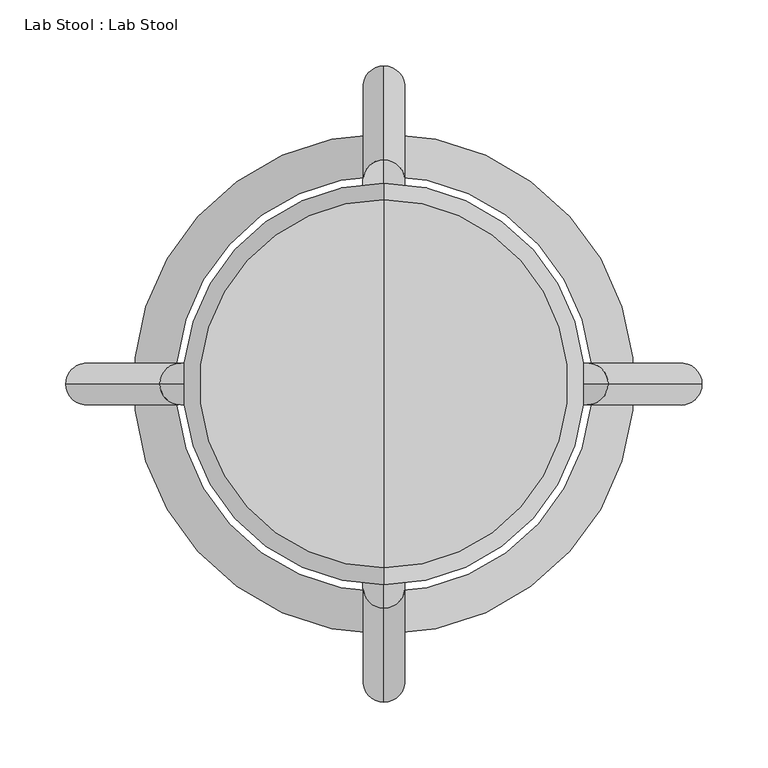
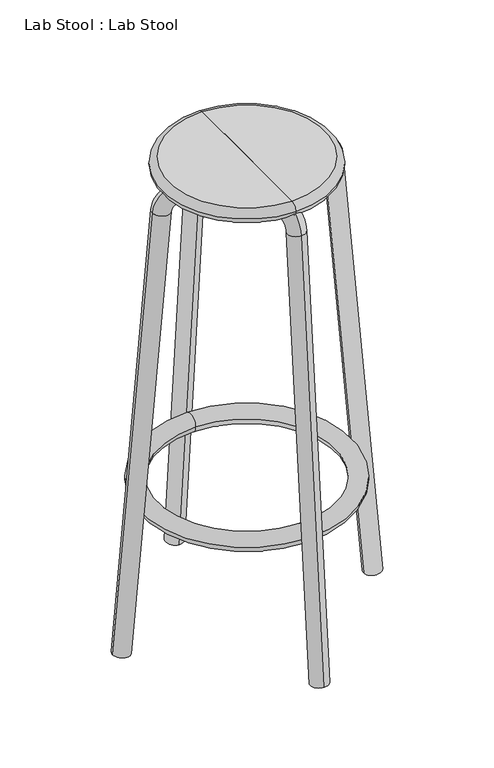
"""IFC4 building model written with IfcOpenShell, lengths in millimetres: furniture geometry, Lab Stool : Lab Stool."""

from ifc_helpers import new_model, si_unit, point, frame, origin, place, context, project, spatial, circle_curve, ellipse_curve, trimmed, source, transform, mapped, element, save
from ifc_brep_helpers import plane_surface, cylinder_surface, revolved_surface, advanced_brep


def lab_stool_lab_stool_061d08b2(model_context):
    return source(origin(), model_context, "Body", "AdvancedBrep", [
        advanced_brep(
        [(0.0, 190.040799, 253.5609407), (0.0, 158.290799, 253.5609407), (0.0, -158.290799, 253.5609407), (0.0, -190.040799, 253.5609407)],
        [
            (0, 1, circle_curve(frame((0.0, 174.165799, 253.5609407), z_axis=(1.0, 0.0, 0.0), x_axis=(0.0, 1.0, 0.0)), 15.875)),
            (1, 2, circle_curve(frame((0.0, 0.0, 253.5609407), z_axis=(0.0, 0.0, -1.0), x_axis=(0.0, -1.0, 0.0)), 158.290799)),
            (2, 3, circle_curve(frame((0.0, -174.165799, 253.5609407), z_axis=(1.0, 0.0, 0.0), x_axis=(0.0, -1.0, 0.0)), 15.875)),
            (3, 0, circle_curve(frame((0.0, 0.0, 253.5609407), z_axis=(0.0, 0.0, 1.0), x_axis=(0.0, -1.0, 0.0)), 190.040799)),
            (1, 0, circle_curve(frame((0.0, 174.165799, 253.5609407), z_axis=(1.0, 0.0, 0.0), x_axis=(0.0, 1.0, 0.0)), 15.875)),
            (3, 2, circle_curve(frame((0.0, -174.165799, 253.5609407), z_axis=(1.0, 0.0, 0.0), x_axis=(0.0, -1.0, 0.0)), 15.875)),
            (2, 1, circle_curve(frame((0.0, 0.0, 253.5609407), z_axis=(0.0, 0.0, -1.0), x_axis=(0.0, 1.0, 0.0)), 158.290799)),
            (0, 3, circle_curve(frame((0.0, 0.0, 253.5609407), z_axis=(0.0, 0.0, 1.0), x_axis=(0.0, 1.0, 0.0)), 190.040799)),
        ],
        [
            revolved_surface(trimmed(ellipse_curve(frame((0.0, -174.165799, 253.5609407), z_axis=(1.0, 0.0, 0.0), x_axis=(0.0, -1.0, 0.0)), 15.875, 15.875), [point((0.0, -158.290799, 253.5609407))], [point((0.0, -190.040799, 253.5609407))], True, "CARTESIAN"), (0.0, 0.0, 254.0), (0.0, 0.0, -1.0)),
            revolved_surface(trimmed(ellipse_curve(frame((0.0, -174.165799, 253.5609407), z_axis=(1.0, 0.0, 0.0), x_axis=(0.0, -1.0, 0.0)), 15.875, 15.875), [point((0.0, -190.040799, 253.5609407))], [point((0.0, -158.290799, 253.5609407))], True, "CARTESIAN"), (0.0, 0.0, 254.0), (0.0, 0.0, -1.0)),
            revolved_surface(trimmed(ellipse_curve(frame((0.0, 174.165799, 253.5609407), z_axis=(-1.0, 0.0, 0.0), x_axis=(0.0, 1.0, 0.0)), 15.875, 15.875), [point((0.0, 158.290799, 253.5609407))], [point((0.0, 190.040799, 253.5609407))], True, "CARTESIAN"), (0.0, 0.0, 254.0), (0.0, 0.0, -1.0)),
            revolved_surface(trimmed(ellipse_curve(frame((0.0, 174.165799, 253.5609407), z_axis=(-1.0, 0.0, 0.0), x_axis=(0.0, 1.0, 0.0)), 15.875, 15.875), [point((0.0, 190.040799, 253.5609407))], [point((0.0, 158.290799, 253.5609407))], True, "CARTESIAN"), (0.0, 0.0, 254.0), (0.0, 0.0, -1.0)),
        ],
        [
            (0, [[1, 2, 3, 4]]),
            (1, [[5, -4, 6, -2]]),
            (2, [[-3, 7, -1, 8]]),
            (3, [[-6, -8, -5, -7]]),
        ],
    ),
        advanced_brep(
        [(0.0, 0.0, 863.6), (0.0, 139.7, 863.6), (0.0, -139.7, 863.6), (0.0, 139.7, 838.2), (0.0, 0.0, 838.2), (0.0, -139.7, 838.2), (0.0, 152.4, 850.9), (0.0, -152.4, 850.9)],
        [
            (0, 1),
            (1, 2, circle_curve(frame((0.0, 0.0, 863.6), z_axis=(0.0, 0.0, 1.0), x_axis=(0.0, -1.0, 0.0)), 139.7)),
            (2, 0),
            (2, 1, circle_curve(frame((0.0, 0.0, 863.6), z_axis=(0.0, 0.0, 1.0), x_axis=(0.0, -1.0, 0.0)), 139.7)),
            (3, 4),
            (4, 5),
            (5, 3, circle_curve(frame((0.0, 0.0, 838.2), z_axis=(0.0, 0.0, -1.0), x_axis=(0.0, -1.0, 0.0)), 139.7)),
            (3, 5, circle_curve(frame((0.0, 0.0, 838.2), z_axis=(0.0, 0.0, -1.0), x_axis=(0.0, -1.0, 0.0)), 139.7)),
            (6, 3, circle_curve(frame((0.0, 139.7, 850.9), z_axis=(-1.0, 0.0, 0.0), x_axis=(0.0, 1.0, 0.0)), 12.7)),
            (5, 7, circle_curve(frame((0.0, -139.7, 850.9), z_axis=(-1.0, 0.0, 0.0), x_axis=(0.0, -1.0, 0.0)), 12.7)),
            (7, 6, circle_curve(frame((0.0, 0.0, 850.9), z_axis=(0.0, 0.0, -1.0), x_axis=(0.0, -1.0, 0.0)), 152.4)),
            (6, 7, circle_curve(frame((0.0, 0.0, 850.9), z_axis=(0.0, 0.0, -1.0), x_axis=(0.0, -1.0, 0.0)), 152.4)),
            (1, 6, circle_curve(frame((0.0, 139.7, 850.9), z_axis=(-1.0, 0.0, 0.0), x_axis=(0.0, 1.0, 0.0)), 12.7)),
            (7, 2, circle_curve(frame((0.0, -139.7, 850.9), z_axis=(-1.0, 0.0, 0.0), x_axis=(0.0, -1.0, 0.0)), 12.7)),
        ],
        [
            plane_surface(frame((0.0, 0.0, 863.6), z_axis=(0.0, 0.0, 1.0), x_axis=(0.0, -1.0, 0.0))),
            plane_surface(frame((0.0, 0.0, 838.2), z_axis=(0.0, 0.0, -1.0), x_axis=(0.0, -1.0, 0.0))),
            revolved_surface(trimmed(ellipse_curve(frame((0.0, -139.7, 850.9), z_axis=(-1.0, 0.0, 0.0), x_axis=(0.0, -1.0, 0.0)), 12.7, 12.7), [point((0.0, -139.7, 838.2))], [point((0.0, -152.4, 850.9))], True, "CARTESIAN"), (0.0, 0.0, 914.4), (0.0, 0.0, 1.0)),
            revolved_surface(trimmed(ellipse_curve(frame((0.0, -139.7, 850.9), z_axis=(-1.0, 0.0, 0.0), x_axis=(0.0, -1.0, 0.0)), 12.7, 12.7), [point((0.0, -152.4, 850.9))], [point((0.0, -139.7, 863.6))], True, "CARTESIAN"), (0.0, 0.0, 914.4), (0.0, 0.0, 1.0)),
        ],
        [
            (0, [[1, 2, 3]]),
            (0, [[-3, 4, -1]]),
            (1, [[5, 6, 7]]),
            (1, [[-6, -5, 8]]),
            (2, [[9, -7, 10, 11]]),
            (2, [[-10, -8, -9, 12]]),
            (3, [[13, -11, 14, -2]]),
            (3, [[-14, -12, -13, -4]]),
        ],
    ),
        advanced_brep(
        [(0.0, 209.9184069, -1.3835974), (0.0, 241.5475886, 1.3835974), (0.0, 170.2431243, 816.3973533), (0.0, 138.6139427, 813.6301584), (0.0, 129.1251882, 854.075), (0.0, 129.1251882, 822.325), (0.0, -129.1251882, 854.075), (0.0, -129.1251882, 822.325), (0.0, -170.2431243, 816.3973533), (0.0, -138.6139427, 813.6301584), (0.0, -209.9184069, -1.3835974), (0.0, -241.5475886, 1.3835974)],
        [
            (0, 1, circle_curve(frame((0.0, 225.7329978, 0.0), z_axis=(0.0, 0.08715574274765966, -0.9961946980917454), x_axis=(0.0, 0.9961946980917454, 0.08715574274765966)), 15.875)),
            (1, 0, circle_curve(frame((0.0, 225.7329978, 0.0), z_axis=(0.0, 0.08715574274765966, -0.9961946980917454), x_axis=(0.0, 0.9961946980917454, 0.08715574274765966)), 15.875)),
            (1, 2),
            (2, 3, circle_curve(frame((0.0, 154.4285335, 815.0137559), z_axis=(0.0, 0.08715574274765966, -0.9961946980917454), x_axis=(0.0, 0.9961946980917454, 0.08715574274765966)), 15.875)),
            (3, 0),
            (3, 2, circle_curve(frame((0.0, 154.4285335, 815.0137559), z_axis=(0.0, 0.08715574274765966, -0.9961946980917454), x_axis=(0.0, 0.9961946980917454, 0.08715574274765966)), 15.875)),
            (4, 5, circle_curve(frame((0.0, 129.1251882, 838.2), z_axis=(0.0, 1.0, 0.0), x_axis=(0.0, 0.0, 1.0)), 15.875)),
            (5, 3, circle_curve(frame((0.0, 129.1251882, 812.8), z_axis=(-1.0, 0.0, 0.0), x_axis=(0.0, 0.9961946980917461, 0.08715574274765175)), 9.525)),
            (2, 4, circle_curve(frame((0.0, 129.1251882, 812.8), z_axis=(1.0, 0.0, 0.0), x_axis=(0.0, 0.9961946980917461, 0.08715574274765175)), 41.275)),
            (5, 4, circle_curve(frame((0.0, 129.1251882, 838.2), z_axis=(0.0, 1.0, 0.0), x_axis=(0.0, 0.0, 1.0)), 15.875)),
            (4, 6),
            (6, 7, circle_curve(frame((0.0, -129.1251882, 838.2), z_axis=(0.0, 1.0, 0.0), x_axis=(0.0, 0.0, 1.0)), 15.875)),
            (7, 5),
            (7, 6, circle_curve(frame((0.0, -129.1251882, 838.2), z_axis=(0.0, 1.0, 0.0), x_axis=(0.0, 0.0, 1.0)), 15.875)),
            (8, 9, circle_curve(frame((0.0, -154.4285335, 815.0137559), z_axis=(0.0, 0.08715574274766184, 0.9961946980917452), x_axis=(0.0, -0.9961946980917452, 0.08715574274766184)), 15.875)),
            (9, 7, circle_curve(frame((0.0, -129.1251882, 812.8), z_axis=(-1.0, 0.0, 0.0), x_axis=(0.0, 0.0, 1.0)), 9.525)),
            (6, 8, circle_curve(frame((0.0, -129.1251882, 812.8), z_axis=(1.0, 0.0, 0.0), x_axis=(0.0, 0.0, 1.0)), 41.275)),
            (9, 8, circle_curve(frame((0.0, -154.4285335, 815.0137559), z_axis=(0.0, 0.08715574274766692, 0.9961946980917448), x_axis=(0.0, -0.9961946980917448, 0.08715574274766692)), 15.875)),
            (10, 11, circle_curve(frame((0.0, -225.7329978, 0.0), z_axis=(0.0, -0.08715574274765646, -0.9961946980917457), x_axis=(0.0, -0.9961946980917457, 0.08715574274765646)), 15.875)),
            (11, 10, circle_curve(frame((0.0, -225.7329978, 0.0), z_axis=(0.0, -0.08715574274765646, -0.9961946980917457), x_axis=(0.0, -0.9961946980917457, 0.08715574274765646)), 15.875)),
            (8, 11),
            (10, 9),
        ],
        [
            plane_surface(frame((0.0, 241.5475886, 1.3835974), z_axis=(0.0, 0.08715574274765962, -0.9961946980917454), x_axis=(1.0, 0.0, 0.0))),
            cylinder_surface(frame((0.0, 225.7329978, 0.0), z_axis=(0.0, 0.08715574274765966, -0.9961946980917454), x_axis=(0.0, 0.9961946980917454, 0.08715574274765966)), 15.875),
            revolved_surface(trimmed(ellipse_curve(frame((0.0, 154.4285335, 815.0137559), z_axis=(0.0, -0.08715574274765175, 0.9961946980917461), x_axis=(0.0, 0.9961946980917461, 0.08715574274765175)), 15.875, 15.875), [point((0.0, 138.6139427, 813.6301584))], [point((0.0, 170.2431243, 816.3973533))], True, "CARTESIAN"), (0.0, 129.1251882, 812.8), (-1.0, 0.0, 0.0)),
            revolved_surface(trimmed(ellipse_curve(frame((0.0, 154.4285335, 815.0137559), z_axis=(0.0, -0.08715574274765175, 0.9961946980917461), x_axis=(0.0, 0.9961946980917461, 0.08715574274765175)), 15.875, 15.875), [point((0.0, 170.2431243, 816.3973533))], [point((0.0, 138.6139427, 813.6301584))], True, "CARTESIAN"), (0.0, 129.1251882, 812.8), (-1.0, 0.0, 0.0)),
            cylinder_surface(frame((0.0, 129.1251882, 838.2), z_axis=(0.0, 1.0, 0.0), x_axis=(0.0, 0.0, 1.0)), 15.875),
            revolved_surface(trimmed(ellipse_curve(frame((0.0, -129.1251882, 838.2), z_axis=(0.0, -1.0, 0.0), x_axis=(0.0, 0.0, 1.0)), 15.875, 15.875), [point((0.0, -129.1251882, 822.325))], [point((0.0, -129.1251882, 854.075))], True, "CARTESIAN"), (0.0, -129.1251882, 812.8), (-1.0, 0.0, 0.0)),
            revolved_surface(trimmed(ellipse_curve(frame((0.0, -129.1251882, 838.2), z_axis=(0.0, -1.0, 0.0), x_axis=(0.0, 0.0, 1.0)), 15.875, 15.875), [point((0.0, -129.1251882, 854.075))], [point((0.0, -129.1251882, 822.325))], True, "CARTESIAN"), (0.0, -129.1251882, 812.8), (-1.0, 0.0, 0.0)),
            plane_surface(frame((0.0, -241.5475886, 1.3835974), z_axis=(0.0, -0.08715574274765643, -0.9961946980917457), x_axis=(1.0, 0.0, 0.0))),
            cylinder_surface(frame((0.0, -154.4285335, 815.0137559), z_axis=(0.0, 0.08715574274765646, 0.9961946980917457), x_axis=(0.0, -0.9961946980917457, 0.08715574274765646)), 15.875),
        ],
        [
            (0, [[1, 2]]),
            (1, [[3, 4, 5, -2]]),
            (1, [[-5, 6, -3, -1]]),
            (2, [[7, 8, -4, 9]]),
            (3, [[10, -9, -6, -8]]),
            (4, [[11, 12, 13, -7]]),
            (4, [[-13, 14, -11, -10]]),
            (5, [[15, 16, -12, 17]]),
            (6, [[18, -17, -14, -16]]),
            (7, [[19, 20]]),
            (8, [[21, -19, 22, -15]]),
            (8, [[-22, -20, -21, -18]]),
        ],
    ),
        advanced_brep(
        [(241.5475886, 0.0, 1.3835974), (209.9184069, 0.0, -1.3835974), (138.6139427, 0.0, 813.6301584), (170.2431243, 0.0, 816.3973533), (129.1251882, 0.0, 822.325), (129.1251882, 0.0, 854.075), (-129.1251882, 0.0, 822.325), (-129.1251882, 0.0, 854.075), (-138.6139427, 0.0, 813.6301584), (-170.2431243, 0.0, 816.3973533), (-241.5475886, 0.0, 1.3835974), (-209.9184069, 0.0, -1.3835974)],
        [
            (0, 1, circle_curve(frame((225.7329978, 0.0, 0.0), z_axis=(0.08715574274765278, 0.0, -0.996194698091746), x_axis=(-0.996194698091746, 0.0, -0.08715574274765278)), 15.875)),
            (1, 0, circle_curve(frame((225.7329978, 0.0, 0.0), z_axis=(0.08715574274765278, 0.0, -0.996194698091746), x_axis=(-0.996194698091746, 0.0, -0.08715574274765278)), 15.875)),
            (1, 2),
            (2, 3, circle_curve(frame((154.4285335, 0.0, 815.0137559), z_axis=(0.08715574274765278, 0.0, -0.996194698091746), x_axis=(-0.996194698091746, 0.0, -0.08715574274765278)), 15.875)),
            (3, 0),
            (3, 2, circle_curve(frame((154.4285335, 0.0, 815.0137559), z_axis=(0.08715574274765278, 0.0, -0.996194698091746), x_axis=(-0.996194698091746, 0.0, -0.08715574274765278)), 15.875)),
            (4, 5, circle_curve(frame((129.1251882, 0.0, 838.2), z_axis=(1.0, 0.0, 0.0), x_axis=(0.0, 0.0, -1.0)), 15.875)),
            (5, 3, circle_curve(frame((129.1251882, 0.0, 812.8), z_axis=(0.0, 1.0, 0.0), x_axis=(0.9961946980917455, 0.0, 0.08715574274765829)), 41.275)),
            (2, 4, circle_curve(frame((129.1251882, 0.0, 812.8), z_axis=(0.0, -1.0, 0.0), x_axis=(0.9961946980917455, 0.0, 0.08715574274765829)), 9.525)),
            (5, 4, circle_curve(frame((129.1251882, 0.0, 838.2), z_axis=(1.0, 0.0, 0.0), x_axis=(0.0, 0.0, -1.0)), 15.875)),
            (4, 6),
            (6, 7, circle_curve(frame((-129.1251882, 0.0, 838.2), z_axis=(1.0, 0.0, 0.0), x_axis=(0.0, 0.0, -1.0)), 15.875)),
            (7, 5),
            (7, 6, circle_curve(frame((-129.1251882, 0.0, 838.2), z_axis=(1.0, 0.0, 0.0), x_axis=(0.0, 0.0, -1.0)), 15.875)),
            (8, 9, circle_curve(frame((-154.4285335, 0.0, 815.0137559), z_axis=(0.08715574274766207, 0.0, 0.9961946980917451), x_axis=(0.9961946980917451, 0.0, -0.08715574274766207)), 15.875)),
            (9, 7, circle_curve(frame((-129.1251882, 0.0, 812.8), z_axis=(0.0, 1.0, 0.0), x_axis=(0.0, 0.0, 1.0)), 41.275)),
            (6, 8, circle_curve(frame((-129.1251882, 0.0, 812.8), z_axis=(0.0, -1.0, 0.0), x_axis=(0.0, 0.0, 1.0)), 9.525)),
            (9, 8, circle_curve(frame((-154.4285335, 0.0, 815.0137559), z_axis=(0.08715574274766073, 0.0, 0.9961946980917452), x_axis=(0.9961946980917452, 0.0, -0.08715574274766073)), 15.875)),
            (10, 11, circle_curve(frame((-225.7329978, 0.0, 0.0), z_axis=(-0.08715574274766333, 0.0, -0.9961946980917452), x_axis=(0.9961946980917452, 0.0, -0.08715574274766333)), 15.875)),
            (11, 10, circle_curve(frame((-225.7329978, 0.0, 0.0), z_axis=(-0.08715574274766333, 0.0, -0.9961946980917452), x_axis=(0.9961946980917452, 0.0, -0.08715574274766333)), 15.875)),
            (8, 11),
            (10, 9),
        ],
        [
            plane_surface(frame((225.7329978, 15.875, 0.0), z_axis=(0.08715574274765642, 0.0, -0.9961946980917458), x_axis=(0.9961946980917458, 0.0, 0.08715574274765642))),
            cylinder_surface(frame((225.7329978, 0.0, 0.0), z_axis=(0.08715574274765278, 0.0, -0.996194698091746), x_axis=(-0.996194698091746, 0.0, -0.08715574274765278)), 15.875),
            revolved_surface(trimmed(ellipse_curve(frame((154.4285335, 0.0, 815.0137559), z_axis=(-0.08715574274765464, 0.0, 0.9961946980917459), x_axis=(-0.9961946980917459, 0.0, -0.08715574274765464)), 15.875, 15.875), [point((170.2431243, 0.0, 816.3973533))], [point((138.6139427, 0.0, 813.6301584))], True, "CARTESIAN"), (129.1251882, 0.0, 812.8), (0.0, 1.0, 0.0)),
            revolved_surface(trimmed(ellipse_curve(frame((154.4285335, 0.0, 815.0137559), z_axis=(-0.08715574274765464, 0.0, 0.9961946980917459), x_axis=(-0.9961946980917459, 0.0, -0.08715574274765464)), 15.875, 15.875), [point((138.6139427, 0.0, 813.6301584))], [point((170.2431243, 0.0, 816.3973533))], True, "CARTESIAN"), (129.1251882, 0.0, 812.8), (0.0, 1.0, 0.0)),
            cylinder_surface(frame((129.1251882, 0.0, 838.2), z_axis=(1.0, 0.0, 0.0), x_axis=(0.0, 0.0, -1.0)), 15.875),
            revolved_surface(trimmed(ellipse_curve(frame((-129.1251882, 0.0, 838.2), z_axis=(-1.0, 0.0, 0.0), x_axis=(0.0, 0.0, -1.0)), 15.875, 15.875), [point((-129.1251882, 0.0, 854.075))], [point((-129.1251882, 0.0, 822.325))], True, "CARTESIAN"), (-129.1251882, 0.0, 812.8), (0.0, 1.0, 0.0)),
            revolved_surface(trimmed(ellipse_curve(frame((-129.1251882, 0.0, 838.2), z_axis=(-1.0, 0.0, 0.0), x_axis=(0.0, 0.0, -1.0)), 15.875, 15.875), [point((-129.1251882, 0.0, 822.325))], [point((-129.1251882, 0.0, 854.075))], True, "CARTESIAN"), (-129.1251882, 0.0, 812.8), (0.0, 1.0, 0.0)),
            plane_surface(frame((-225.7329978, -15.875, 0.0), z_axis=(-0.08715574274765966, 0.0, -0.9961946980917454), x_axis=(0.9961946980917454, 0.0, -0.08715574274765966))),
            cylinder_surface(frame((-154.4285335, 0.0, 815.0137559), z_axis=(0.08715574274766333, 0.0, 0.9961946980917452), x_axis=(0.9961946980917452, 0.0, -0.08715574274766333)), 15.875),
        ],
        [
            (0, [[1, 2]]),
            (1, [[3, 4, 5, -2]]),
            (1, [[-5, 6, -3, -1]]),
            (2, [[7, 8, -4, 9]]),
            (3, [[10, -9, -6, -8]]),
            (4, [[11, 12, 13, -7]]),
            (4, [[-13, 14, -11, -10]]),
            (5, [[15, 16, -12, 17]]),
            (6, [[18, -17, -14, -16]]),
            (7, [[19, 20]]),
            (8, [[21, -19, 22, -15]]),
            (8, [[-22, -20, -21, -18]]),
        ],
    ),
    ])


if __name__ == "__main__":
    model = new_model("IFC4")
    model_context = context("Model", 3, world=origin())
    ifc_project = project(units=[si_unit("LENGTHUNIT", "METRE", prefix="MILLI")], contexts=[model_context])
    site = spatial("IfcSite", under=ifc_project)
    building = spatial("IfcBuilding", under=site)
    placement = place(None, origin())
    lab_stool_lab_stool_shape = lab_stool_lab_stool_061d08b2(model_context)
    element("IfcFurniture", 1, ObjectType="Lab Stool : Lab Stool", at=placement, inside=building, context=model_context, shape_type="MappedRepresentation", body=[
        mapped(lab_stool_lab_stool_shape, transform((0.0, 0.0, 0.0), x_axis=(1.0, 0.0, 0.0), y_axis=(0.0, 1.0, 0.0), z_axis=(0.0, 0.0, 1.0))),
    ])
    save(model, "model.ifc")
